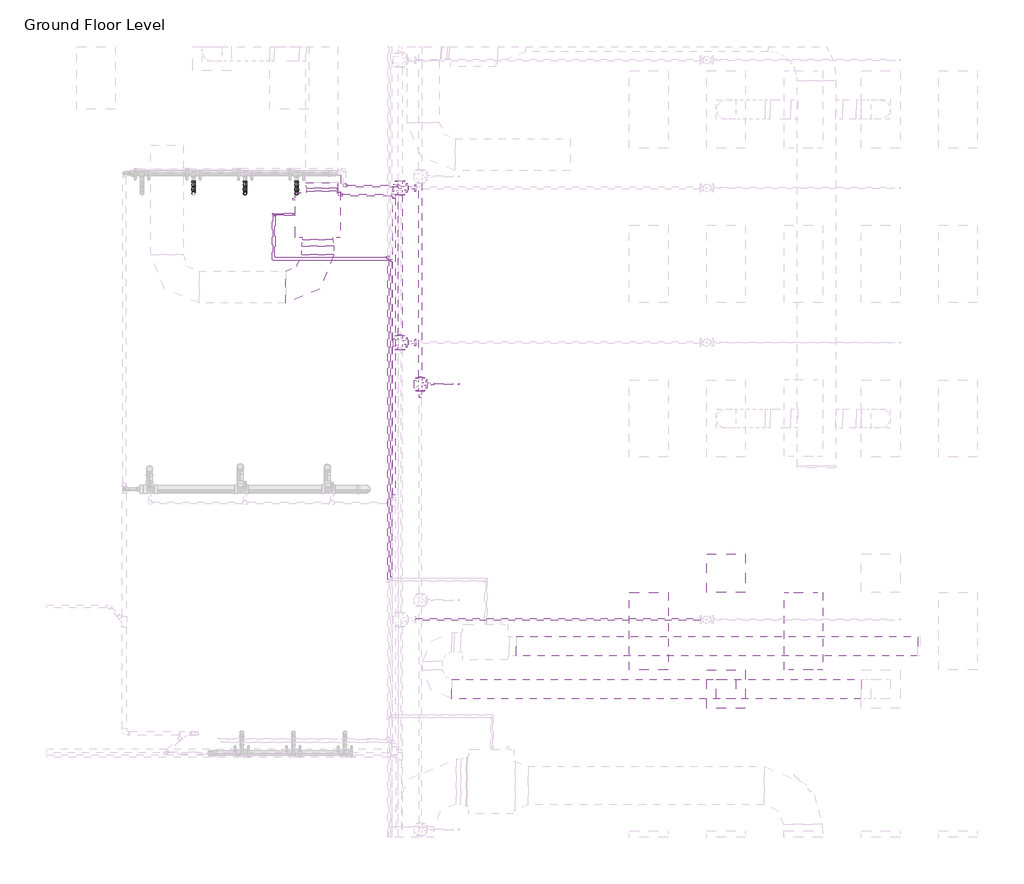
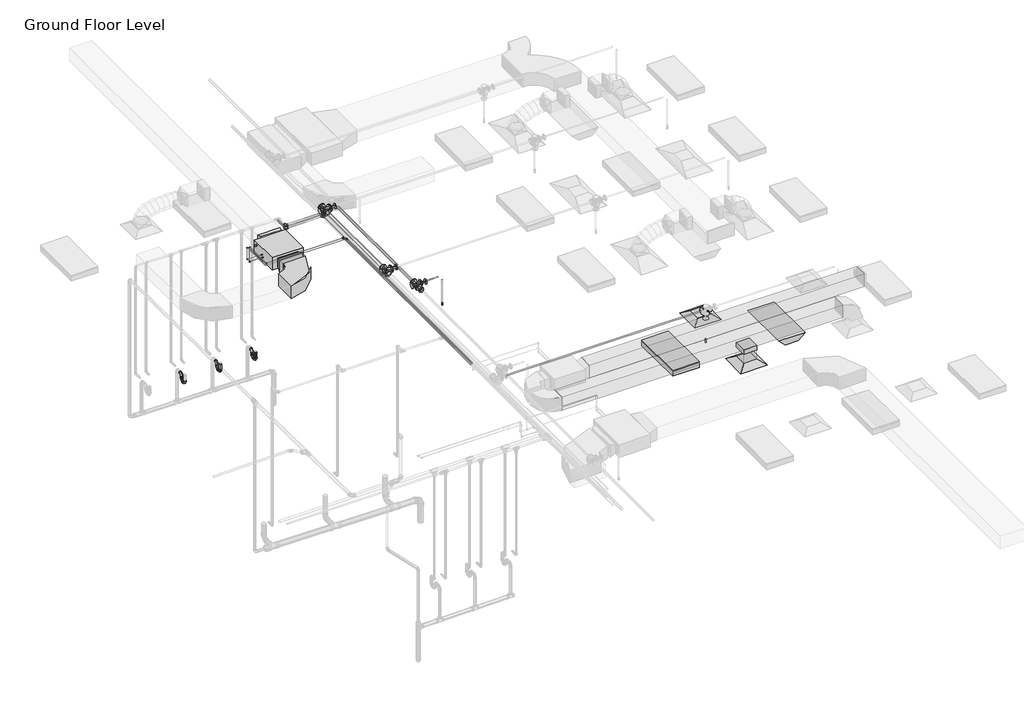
# One storey, part 22 of 75: 28 pipe fittings, 26 pipe segments, 5 duct segments, 4 duct fittings, 2 air terminals, 2 fire suppression terminals, 2 light fixtures, 1 proxy.
"""IFC4 building model written with IfcOpenShell, lengths in millimetres."""

from ifc_helpers import new_model, si_unit, point, frame, frame_2d, origin, place, context, project, spatial, polyline, circle_curve, trimmed, segment, composite_curve, outline, extrude, transform, mapped, element, save
from components import m_return_diffuser_600_x_600_face_300_x_300_connection_ff221211, fcu_daikin_iu_bad131e0, m_rectangular_elbow_radius_1_w_abe20169, m_rectangular_takeoff_standard_2be5eba1, m_rectangular_transition_angle_45_degree_f7c2916c, m_rectangular_transition_angle_45_degree_c3bd3b2c, m_sprinkler_dry_pendent_hosted_15_mm_dry_pendent_9bda8e11, m_sprinkler_pendent_15_mm_pendent_06fcbd8e, m_emergency_recessed_lighting_fixture_600x1200_277_5b10b25d, m_troffer_light_parabolic_rectangular1_0600x1200mm_4_lamp_86473d4a, m_bend_pvc_sch_40_dwv_standard_1e7bdcc1, m_bend_pvc_sch_40_dwv_standard_776e50c4, m_elbow_generic_standard_a088f956, m_elbow_generic_standard_2a704253, m_reducer_flanged_cs_class_150_standard_b6b67c23, m_reducer_flanged_cs_class_150_standard_cc2a7c1d, m_reducer_flanged_cs_class_150_standard_a7631c35, m_tee_generic_standard_5b2ed4d4, m_tee_generic_standard_5078887e, m_tee_round_base_flanged_cs_class_150_standard_dd767e04, m_tee_round_base_flanged_cs_class_150_standard_9c9133d0, m_transition_generic_standard_bdcfe2c1, m_transition_generic_standard_44e35838, standard_517a5a8d

model = new_model("IFC4")

# Units and contexts
model_context = context("Model", 3, world=origin())
ifc_project = project(units=[si_unit("LENGTHUNIT", "METRE", prefix="MILLI")], contexts=[model_context])

# Site, building, storey
site = spatial("IfcSite", under=ifc_project)
building = spatial("IfcBuilding", under=site)
storey = spatial("IfcBuildingStorey", under=building, Name="Ground Floor Level", Elevation=900.0)

# Air terminals
placement = place(None, origin())
m_return_diffuser_600_x_600_face_300_x_300_connection_shape = m_return_diffuser_600_x_600_face_300_x_300_connection_ff221211(model_context)
element("IfcAirTerminal", 1, ObjectType="M_Return Diffuser : 600 x 600 Face 300 x 300 Connection", at=placement, inside=storey, context=model_context, shape_type="MappedRepresentation", body=[
    mapped(m_return_diffuser_600_x_600_face_300_x_300_connection_shape, transform((10743.0482736, -31864.7846466, 3650.0), x_axis=(1.0, 0.0, 0.0), y_axis=(0.0, 1.0, 0.0), z_axis=(0.0, 0.0, 1.0))),
])
element("IfcAirTerminal", 2, ObjectType="M_Supply Diffuser : 600 x 600 Face 300 x 300 Connection", at=placement, inside=storey, context=model_context, shape_type="MappedRepresentation", body=[
    mapped(m_return_diffuser_600_x_600_face_300_x_300_connection_shape, transform((10743.0482736, -30064.7846466, 3650.0), x_axis=(1.0, 0.0, 0.0), y_axis=(0.0, 1.0, 0.0), z_axis=(0.0, 0.0, 1.0))),
])

# Proxy
fcu_daikin_iu_shape = fcu_daikin_iu_bad131e0(model_context)
element("IfcBuildingElementProxy", 3, Name="FCU-DAIKIN IU : 4.5kW, 230V/50Hz/1Ph", ObjectType="FCU-DAIKIN IU : 4.5kW, 230V/50Hz/1Ph", at=placement, inside=storey, context=model_context, shape_type="MappedRepresentation", body=[
    mapped(fcu_daikin_iu_shape, transform((4405.6581832, -24507.2627051, 3934.1054453), x_axis=(-1.0, 0.0, 0.0), y_axis=(0.0, -1.0, 0.0), z_axis=(0.0, 0.0, 1.0))),
])

# Duct fittings
m_rectangular_elbow_radius_1_w_shape = m_rectangular_elbow_radius_1_w_abe20169(model_context)
element("IfcDuctFitting", 4, ObjectType="M_Rectangular Elbow - Radius : 1 W", at=placement, inside=storey, context=model_context, shape_type="MappedRepresentation", body=[
    mapped(m_rectangular_elbow_radius_1_w_shape, transform((4405.6581832, -25622.6440715, 4075.3054453), x_axis=(1.0, 0.0, 0.0), y_axis=(0.0, 1.0, 0.0), z_axis=(0.0, 0.0, 1.0))),
])
m_rectangular_takeoff_standard_shape = m_rectangular_takeoff_standard_2be5eba1(model_context)
element("IfcDuctFitting", 5, ObjectType="M_Rectangular Takeoff : Standard", at=placement, inside=storey, context=model_context, shape_type="MappedRepresentation", body=[
    mapped(m_rectangular_takeoff_standard_shape, transform((10743.0482736, -31864.7846466, 4071.2), x_axis=(0.0, 0.0, -1.0), y_axis=(-1.0, 0.0, 0.0), z_axis=(0.0, 1.0, 0.0))),
])
m_rectangular_transition_angle_45_degree_shape = m_rectangular_transition_angle_45_degree_f7c2916c(model_context)
element("IfcDuctFitting", 6, ObjectType="M_Rectangular Transition - Angle : 45 Degree", at=placement, inside=storey, context=model_context, shape_type="MappedRepresentation", body=[
    mapped(m_rectangular_transition_angle_45_degree_shape, transform((4405.6581832, -24882.6627051, 4075.3054453), x_axis=(0.0, -1.0, 0.0), y_axis=(1.0, 0.0, 0.0), z_axis=(0.0, 0.0, 1.0))),
])
m_rectangular_transition_angle_45_degree_2_shape = m_rectangular_transition_angle_45_degree_c3bd3b2c(model_context)
element("IfcDuctFitting", 7, ObjectType="M_Rectangular Transition - Angle : 45 Degree", at=placement, inside=storey, context=model_context, shape_type="MappedRepresentation", body=[
    mapped(m_rectangular_transition_angle_45_degree_2_shape, transform((4469.1581832, -24003.4668801, 4057.1548873), x_axis=(0.0, -0.9999999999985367, 1.7107374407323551e-06), y_axis=(1.0, 0.0, 0.0), z_axis=(0.0, 1.7107374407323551e-06, 0.9999999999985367))),
])

# Duct segments
element("IfcDuctSegment", 8, ObjectType="Radius Elbows / Taps", at=placement, inside=storey, context=model_context, shape_type="SweptSolid", body=[
    extrude(outline(polyline([(4155.6581832, -24986.1117562), (4655.6581832, -24986.1117562), (4655.6581832, -25122.6440715), (4155.6581832, -25122.6440715), (4155.6581832, -24986.1117562)])), frame((0.0, 0.0, 3925.3054453), z_axis=(0.0, 0.0, 1.0), x_axis=(1.0, 0.0, 0.0)), (0.0, 0.0, 1.0), 300.0),
])
element("IfcDuctSegment", 9, ObjectType="Radius Elbows / Taps", at=placement, inside=storey, context=model_context, shape_type="SweptSolid", body=[
    extrude(outline(polyline([(0.0, -300.0), (0.0, 0.0), (6236.5207712, 0.0), (6236.5207712, -300.0), (0.0, -300.0)])), frame((7482.7433356, -31050.1877703, 4095.9125), z_axis=(2.004322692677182e-06, 0.0, 0.9999999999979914), x_axis=(0.9999999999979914, 0.0, -2.004322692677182e-06)), (0.0, 0.0, 1.0), 300.0),
])
element("IfcDuctSegment", 10, ObjectType="Radius Elbows / Taps", at=placement, inside=storey, context=model_context, shape_type="SweptSolid", body=[
    extrude(outline(polyline([(6488.4644074, -32014.7846466), (6488.4644074, -31714.7846466), (12843.0482736, -31714.7846466), (12843.0482736, -32014.7846466), (6488.4644074, -32014.7846466)])), frame((0.0, 0.0, 4071.2), z_axis=(0.0, 0.0, 1.0), x_axis=(1.0, 0.0, 0.0)), (0.0, 0.0, 1.0), 300.0),
])
element("IfcDuctSegment", 11, ObjectType="Radius Elbows / Taps", at=placement, inside=storey, context=model_context, shape_type="SweptSolid", body=[
    extrude(outline(polyline([(10893.0482736, -32014.7846466), (10593.0482736, -32014.7846466), (10593.0482736, -31714.7846466), (10893.0482736, -31714.7846466), (10893.0482736, -32014.7846466)])), frame((0.0, 0.0, 3751.6), z_axis=(0.0, 0.0, 1.0), x_axis=(1.0, 0.0, 0.0)), (0.0, 0.0, 1.0), 218.0),
])
element("IfcDuctSegment", 12, ObjectType="Radius Elbows / Taps", at=placement, inside=storey, context=model_context, shape_type="SweptSolid", body=[
    extrude(outline(polyline([(4700.0956832, -24131.8627051), (4238.2206832, -24131.8627051), (4238.2206832, -24089.1912487), (4700.0956832, -24089.1912487), (4700.0956832, -24131.8627051)])), frame((0.0, 0.0, 3992.8804453), z_axis=(0.0, 0.0, 1.0), x_axis=(1.0, 0.0, 0.0)), (0.0, 0.0, 1.0), 214.275),
])

# Fire suppression terminals
m_sprinkler_dry_pendent_hosted_15_mm_dry_pendent_shape = m_sprinkler_dry_pendent_hosted_15_mm_dry_pendent_9bda8e11(model_context)
element("IfcFireSuppressionTerminal", 13, ObjectType="M_Sprinkler - Dry - Pendent - Hosted : 15 mm Dry Pendent", at=placement, inside=storey, context=model_context, shape_type="MappedRepresentation", body=[
    mapped(m_sprinkler_dry_pendent_hosted_15_mm_dry_pendent_shape, transform((10443.0482736, -30785.1783804, 3650.0), x_axis=(1.0, 0.0, 0.0), y_axis=(0.0, -1.0, 0.0), z_axis=(0.0, 0.0, -1.0))),
])
m_sprinkler_pendent_15_mm_pendent_shape = m_sprinkler_pendent_15_mm_pendent_06fcbd8e(model_context)
element("IfcFireSuppressionTerminal", 14, ObjectType="M_Sprinkler - Pendent : 15 mm Pendent", at=placement, inside=storey, context=model_context, shape_type="MappedRepresentation", body=[
    mapped(m_sprinkler_pendent_15_mm_pendent_shape, transform((6592.5481019, -27129.3982359, 3650.0), x_axis=(1.0, 0.0, 0.0), y_axis=(0.0, 1.0, 0.0), z_axis=(0.0, 0.0, 1.0))),
])

# Light fixtures
m_emergency_recessed_lighting_fixture_600x1200_277_shape = m_emergency_recessed_lighting_fixture_600x1200_277_5b10b25d(model_context)
element("IfcLightFixture", 15, ObjectType="M_Emergency Recessed Lighting Fixture : 600x1200 - 277", at=placement, inside=storey, context=model_context, shape_type="MappedRepresentation", body=[
    mapped(m_emergency_recessed_lighting_fixture_600x1200_277_shape, transform((11643.0482736, -31564.7846466, 3650.0), x_axis=(0.0, 1.0, 0.0), y_axis=(-1.0, 0.0, 0.0), z_axis=(0.0, 0.0, 1.0))),
])
m_troffer_light_parabolic_rectangular1_0600x1200mm_4_lamp_shape = m_troffer_light_parabolic_rectangular1_0600x1200mm_4_lamp_86473d4a(model_context)
element("IfcLightFixture", 16, ObjectType="M_Troffer Light - Parabolic Rectangular1 : 0600x1200mm(4 Lamp) - 277V 2", at=placement, inside=storey, context=model_context, shape_type="MappedRepresentation", body=[
    mapped(m_troffer_light_parabolic_rectangular1_0600x1200mm_4_lamp_shape, transform((9483.5823415, -30946.081145, 3650.0), x_axis=(0.0, 1.0, 0.0), y_axis=(-1.0, 0.0, 0.0), z_axis=(0.0, 0.0, 1.0))),
])

# Pipe fittings
m_bend_pvc_sch_40_dwv_standard_shape = m_bend_pvc_sch_40_dwv_standard_1e7bdcc1(model_context)
element("IfcPipeFitting", 17, ObjectType="M_Bend - PVC - Sch 40 - DWV : Standard", at=placement, inside=storey, context=model_context, shape_type="MappedRepresentation", body=[
    mapped(m_bend_pvc_sch_40_dwv_standard_shape, transform((2479.14976, -24168.3528577, 1360.00001), x_axis=(0.0, -0.9999500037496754, 0.009999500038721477), y_axis=(0.0, 0.009999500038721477, 0.9999500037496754), z_axis=(-1.0, 0.0, 0.0))),
])
element("IfcPipeFitting", 18, ObjectType="M_Bend - PVC - Sch 40 - DWV : Standard", at=placement, inside=storey, context=model_context, shape_type="MappedRepresentation", body=[
    mapped(m_bend_pvc_sch_40_dwv_standard_shape, transform((3279.14976, -24168.3528577, 1360.0000049), x_axis=(0.0, -0.9999500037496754, 0.009999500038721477), y_axis=(0.0, 0.009999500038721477, 0.9999500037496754), z_axis=(-1.0, 0.0, 0.0))),
])
element("IfcPipeFitting", 19, ObjectType="M_Bend - PVC - Sch 40 - DWV : Standard", at=placement, inside=storey, context=model_context, shape_type="MappedRepresentation", body=[
    mapped(m_bend_pvc_sch_40_dwv_standard_shape, transform((4079.14976, -24168.3528577, 1360.00001), x_axis=(0.0, -0.9999500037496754, 0.009999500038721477), y_axis=(0.0, 0.009999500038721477, 0.9999500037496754), z_axis=(-1.0, 0.0, 0.0))),
])
m_bend_pvc_sch_40_dwv_standard_2_shape = m_bend_pvc_sch_40_dwv_standard_776e50c4(model_context)
element("IfcPipeFitting", 20, ObjectType="M_Bend - PVC - Sch 40 - DWV : Standard", at=placement, inside=storey, context=model_context, shape_type="MappedRepresentation", body=[
    mapped(m_bend_pvc_sch_40_dwv_standard_2_shape, transform((2479.14976, -24038.3518579, 1358.7), x_axis=(0.0, 0.9999500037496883, -0.009999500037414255), y_axis=(0.0, 0.009999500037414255, 0.9999500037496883), z_axis=(1.0, 0.0, 0.0))),
])
element("IfcPipeFitting", 21, ObjectType="M_Bend - PVC - Sch 40 - DWV : Standard", at=placement, inside=storey, context=model_context, shape_type="MappedRepresentation", body=[
    mapped(m_bend_pvc_sch_40_dwv_standard_2_shape, transform((2479.14976, -24038.3518579, 1510.09999), x_axis=(0.0, 0.0, 1.0), y_axis=(0.0, 1.0, 0.0), z_axis=(-1.0, 0.0, 0.0))),
])
element("IfcPipeFitting", 22, ObjectType="M_Bend - PVC - Sch 40 - DWV : Standard", at=placement, inside=storey, context=model_context, shape_type="MappedRepresentation", body=[
    mapped(m_bend_pvc_sch_40_dwv_standard_2_shape, transform((3279.14976, -24038.3523645, 1358.7), x_axis=(0.0, 0.9999500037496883, -0.009999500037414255), y_axis=(0.0, 0.009999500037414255, 0.9999500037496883), z_axis=(1.0, 0.0, 0.0))),
])
element("IfcPipeFitting", 23, ObjectType="M_Bend - PVC - Sch 40 - DWV : Standard", at=placement, inside=storey, context=model_context, shape_type="MappedRepresentation", body=[
    mapped(m_bend_pvc_sch_40_dwv_standard_2_shape, transform((3279.14976, -24038.3523645, 1510.0493267), x_axis=(0.0, 0.0, 1.0), y_axis=(0.0, 1.0, 0.0), z_axis=(-1.0, 0.0, 0.0))),
])
element("IfcPipeFitting", 24, ObjectType="M_Bend - PVC - Sch 40 - DWV : Standard", at=placement, inside=storey, context=model_context, shape_type="MappedRepresentation", body=[
    mapped(m_bend_pvc_sch_40_dwv_standard_2_shape, transform((4079.14976, -24038.3518579, 1358.7), x_axis=(0.0, 0.9999500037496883, -0.009999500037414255), y_axis=(0.0, 0.009999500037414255, 0.9999500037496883), z_axis=(1.0, 0.0, 0.0))),
])
element("IfcPipeFitting", 25, ObjectType="M_Bend - PVC - Sch 40 - DWV : Standard", at=placement, inside=storey, context=model_context, shape_type="MappedRepresentation", body=[
    mapped(m_bend_pvc_sch_40_dwv_standard_2_shape, transform((4079.14976, -24038.3518579, 1510.09999), x_axis=(0.0, 0.0, 1.0), y_axis=(0.0, 1.0, 0.0), z_axis=(-1.0, 0.0, 0.0))),
])
m_elbow_generic_standard_shape = m_elbow_generic_standard_a088f956(model_context)
element("IfcPipeFitting", 26, ObjectType="M_Elbow - Generic : Standard", at=placement, inside=storey, context=model_context, shape_type="MappedRepresentation", body=[
    mapped(m_elbow_generic_standard_shape, transform((3741.7995393, -24507.2440715, 4034.0875), x_axis=(-1.0, 0.0, 0.0), y_axis=(0.0, 0.0, 1.0), z_axis=(0.0, 1.0, 0.0))),
])
element("IfcPipeFitting", 27, ObjectType="M_Elbow - Generic : Standard", at=placement, inside=storey, context=model_context, shape_type="MappedRepresentation", body=[
    mapped(m_elbow_generic_standard_shape, transform((3741.7995393, -24507.2440715, 4390.0), x_axis=(0.0, 0.0, 1.0), y_axis=(0.0, -1.0, 0.0), z_axis=(1.0, 0.0, 0.0))),
])
m_elbow_generic_standard_2_shape = m_elbow_generic_standard_2a704253(model_context)
element("IfcPipeFitting", 28, ObjectType="M_Elbow - Generic : Standard", at=placement, inside=storey, context=model_context, shape_type="MappedRepresentation", body=[
    mapped(m_elbow_generic_standard_2_shape, transform((3705.4496688, -24482.2440715, 4084.8875), x_axis=(-1.0, 0.0, 0.0), y_axis=(0.0, 0.0, 1.0), z_axis=(0.0, 1.0, 0.0))),
])
element("IfcPipeFitting", 29, ObjectType="M_Elbow - Generic : Standard", at=placement, inside=storey, context=model_context, shape_type="MappedRepresentation", body=[
    mapped(m_elbow_generic_standard_2_shape, transform((3705.4496688, -24482.2440715, 4377.5), x_axis=(0.0, 0.0, 1.0), y_axis=(0.0, -1.0, 0.0), z_axis=(1.0, 0.0, 0.0))),
])
m_reducer_flanged_cs_class_150_standard_shape = m_reducer_flanged_cs_class_150_standard_b6b67c23(model_context)
element("IfcPipeFitting", 30, ObjectType="M_Reducer - Flanged - CS - Class 150 : Standard", at=placement, inside=storey, context=model_context, shape_type="MappedRepresentation", body=[
    mapped(m_reducer_flanged_cs_class_150_standard_shape, transform((5997.057812, -27235.4968297, 4291.0943441), x_axis=(0.0, -1.0, 0.0), y_axis=(1.0, 0.0, 0.0), z_axis=(0.0, 0.0, 1.0))),
])
m_reducer_flanged_cs_class_150_standard_2_shape = m_reducer_flanged_cs_class_150_standard_cc2a7c1d(model_context)
element("IfcPipeFitting", 31, ObjectType="M_Reducer - Flanged - CS - Class 150 : Standard", at=placement, inside=storey, context=model_context, shape_type="MappedRepresentation", body=[
    mapped(m_reducer_flanged_cs_class_150_standard_2_shape, transform((6103.1564057, -27129.3982359, 4291.2754753), x_axis=(1.0, 0.0, 0.0), y_axis=(0.0, 0.0, -1.0), z_axis=(0.0, 1.0, 0.0))),
])
m_reducer_flanged_cs_class_150_standard_3_shape = m_reducer_flanged_cs_class_150_standard_a7631c35(model_context)
element("IfcPipeFitting", 32, ObjectType="M_Reducer - Flanged - CS - Class 150 : Standard", at=placement, inside=storey, context=model_context, shape_type="MappedRepresentation", body=[
    mapped(m_reducer_flanged_cs_class_150_standard_3_shape, transform((5798.6174894, -26484.6295433, 4347.5), x_axis=(1.0, 0.0, 0.0), y_axis=(0.0, 0.0, 1.0), z_axis=(0.0, -1.0, 0.0))),
])
element("IfcPipeFitting", 33, ObjectType="M_Reducer - Flanged - CS - Class 150 : Standard", at=placement, inside=storey, context=model_context, shape_type="MappedRepresentation", body=[
    mapped(m_reducer_flanged_cs_class_150_standard_3_shape, transform((5798.6174894, -24083.6779349, 4347.5), x_axis=(1.0, 0.0, 0.0), y_axis=(0.0, 0.0, 1.0), z_axis=(0.0, -1.0, 0.0))),
])
m_tee_generic_standard_shape = m_tee_generic_standard_5b2ed4d4(model_context)
element("IfcPipeFitting", 34, ObjectType="M_Tee - Generic : Standard", at=placement, inside=storey, context=model_context, shape_type="MappedRepresentation", body=[
    mapped(m_tee_generic_standard_shape, transform((5543.9904113, -25206.4899508, 4377.5), x_axis=(0.0, -1.0, 0.0), y_axis=(1.0, 0.0, 0.0), z_axis=(0.0, 0.0, 1.0))),
])
m_tee_generic_standard_2_shape = m_tee_generic_standard_5078887e(model_context)
element("IfcPipeFitting", 35, ObjectType="M_Tee - Generic : Standard", at=placement, inside=storey, context=model_context, shape_type="MappedRepresentation", body=[
    mapped(m_tee_generic_standard_2_shape, transform((5497.8951827, -25162.0896488, 4390.0), x_axis=(0.0, -1.0, 0.0), y_axis=(1.0, 0.0, 0.0), z_axis=(0.0, 0.0, 1.0))),
])
m_tee_round_base_flanged_cs_class_150_standard_shape = m_tee_round_base_flanged_cs_class_150_standard_dd767e04(model_context)
element("IfcPipeFitting", 36, ObjectType="M_Tee Round Base - Flanged - CS - Class 150 : Standard", at=placement, inside=storey, context=model_context, shape_type="MappedRepresentation", body=[
    mapped(m_tee_round_base_flanged_cs_class_150_standard_shape, transform((5684.6174894, -26484.6295433, 4347.5), x_axis=(0.0, -1.0, 0.0), y_axis=(-1.0, 0.0, 0.0), z_axis=(0.0, 0.0, -1.0))),
])
element("IfcPipeFitting", 37, ObjectType="M_Tee Round Base - Flanged - CS - Class 150 : Standard", at=placement, inside=storey, context=model_context, shape_type="MappedRepresentation", body=[
    mapped(m_tee_round_base_flanged_cs_class_150_standard_shape, transform((5684.6174894, -24083.6779349, 4347.5), x_axis=(0.0, -1.0, 0.0), y_axis=(-1.0, 0.0, 0.0), z_axis=(0.0, 0.0, -1.0))),
])
m_tee_round_base_flanged_cs_class_150_standard_2_shape = m_tee_round_base_flanged_cs_class_150_standard_9c9133d0(model_context)
element("IfcPipeFitting", 38, ObjectType="M_Tee Round Base - Flanged - CS - Class 150 : Standard", at=placement, inside=storey, context=model_context, shape_type="MappedRepresentation", body=[
    mapped(m_tee_round_base_flanged_cs_class_150_standard_2_shape, transform((5997.057812, -27129.3982359, 4291.0943441), x_axis=(0.0, 1.0, 0.0), y_axis=(-1.0, 0.0, 0.0), z_axis=(0.0, 0.0, 1.0))),
])
m_transition_generic_standard_shape = m_transition_generic_standard_bdcfe2c1(model_context)
element("IfcPipeFitting", 39, ObjectType="M_Transition - Generic : Standard", at=placement, inside=storey, context=model_context, shape_type="MappedRepresentation", body=[
    mapped(m_transition_generic_standard_shape, transform((5523.3529113, -25206.4899508, 4377.5), x_axis=(-1.0, 0.0, 0.0), y_axis=(0.0, -1.0, 0.0), z_axis=(0.0, 0.0, 1.0))),
])
m_transition_generic_standard_2_shape = m_transition_generic_standard_44e35838(model_context)
element("IfcPipeFitting", 40, ObjectType="M_Transition - Generic : Standard", at=placement, inside=storey, context=model_context, shape_type="MappedRepresentation", body=[
    mapped(m_transition_generic_standard_2_shape, transform((5474.0826827, -25162.0896488, 4390.0), x_axis=(-1.0, 0.0, 0.0), y_axis=(0.0, -1.0, 0.0), z_axis=(0.0, 0.0, 1.0))),
])
standard_shape = standard_517a5a8d(model_context)
element("IfcPipeFitting", 41, ObjectType="M_Elbow - CPVC - Sch 40 : Standard", at=placement, inside=storey, context=model_context, shape_type="MappedRepresentation", body=[
    mapped(standard_shape, transform((4743.0647206, -24195.7825432, 4300.0), x_axis=(0.0, -1.0, 0.0), y_axis=(1.0, 0.0, 0.0), z_axis=(0.0, 0.0, 1.0))),
])
element("IfcPipeFitting", 42, ObjectType="M_Elbow - CPVC - Sch 40 : Standard", at=placement, inside=storey, context=model_context, shape_type="MappedRepresentation", body=[
    mapped(standard_shape, transform((5589.646628, -24195.7825432, 4300.0), x_axis=(0.0, 1.0, 0.0), y_axis=(-1.0, 0.0, 0.0), z_axis=(0.0, 0.0, 1.0))),
])
element("IfcPipeFitting", 43, ObjectType="M_Elbow - CPVC - Sch 40 : Standard", at=placement, inside=storey, context=model_context, shape_type="MappedRepresentation", body=[
    mapped(standard_shape, transform((5680.5575802, -24054.921633, 4250.0), x_axis=(0.0, 1.0, 0.0), y_axis=(-1.0, 0.0, 0.0), z_axis=(0.0, 0.0, 1.0))),
])
element("IfcPipeFitting", 44, ObjectType="M_Elbow - CPVC - Sch 40 : Standard", at=placement, inside=storey, context=model_context, shape_type="MappedRepresentation", body=[
    mapped(standard_shape, transform((4820.5575802, -24054.921633, 4250.0), x_axis=(0.0, -1.0, 0.0), y_axis=(1.0, 0.0, 0.0), z_axis=(0.0, 0.0, 1.0))),
])

# Pipe segments
element("IfcPipeSegment", 45, ObjectType="CPVC", at=placement, inside=storey, context=model_context, shape_type="SweptSolid", body=[
    extrude(outline(composite_curve([segment(trimmed(circle_curve(frame_2d((4300.0, 4743.0647206)), 16.7005), [point((4300.0, 4726.3642206))], [point((4283.2995, 4743.0647206))], False, "CARTESIAN"), True, "CONTINUOUS"), segment(trimmed(circle_curve(frame_2d((4300.0, 4743.0647206)), 16.7005), [point((4283.2995, 4743.0647206))], [point((4300.0, 4759.7652206))], False, "CARTESIAN"), True, "CONTINUOUS"), segment(trimmed(circle_curve(frame_2d((4300.0, 4743.0647206)), 16.7005), [point((4300.0, 4759.7652206))], [point((4316.7005, 4743.0647206))], False, "CARTESIAN"), True, "CONTINUOUS"), segment(trimmed(circle_curve(frame_2d((4300.0, 4743.0647206)), 16.7005), [point((4316.7005, 4743.0647206))], [point((4300.0, 4726.3642206))], False, "CARTESIAN"), True, "CONTINUOUS")], self_intersect=False)), frame((0.0, -24152.5199932, 0.0), z_axis=(0.0, 1.0, 0.0), x_axis=(0.0, 0.0, 1.0)), (0.0, 0.0, 1.0), 264.4727966),
])
element("IfcPipeSegment", 46, ObjectType="CPVC", at=placement, inside=storey, context=model_context, shape_type="SweptSolid", body=[
    extrude(outline(composite_curve([segment(trimmed(circle_curve(frame_2d((-24195.7825432, 4300.0)), 16.7005), [point((-24212.4830432, 4300.0))], [point((-24195.7825432, 4316.7005))], False, "CARTESIAN"), True, "CONTINUOUS"), segment(trimmed(circle_curve(frame_2d((-24195.7825432, 4300.0)), 16.7005), [point((-24195.7825432, 4316.7005))], [point((-24179.0820432, 4300.0))], False, "CARTESIAN"), True, "CONTINUOUS"), segment(trimmed(circle_curve(frame_2d((-24195.7825432, 4300.0)), 16.7005), [point((-24179.0820432, 4300.0))], [point((-24195.7825432, 4283.2995))], False, "CARTESIAN"), True, "CONTINUOUS"), segment(trimmed(circle_curve(frame_2d((-24195.7825432, 4300.0)), 16.7005), [point((-24195.7825432, 4283.2995))], [point((-24212.4830432, 4300.0))], False, "CARTESIAN"), True, "CONTINUOUS")], self_intersect=False)), frame((4786.3272706, 0.0, 0.0), z_axis=(1.0, 0.0, 0.0), x_axis=(0.0, 1.0, 0.0)), (0.0, 0.0, 1.0), 760.0568074),
])
element("IfcPipeSegment", 47, ObjectType="CPVC", at=placement, inside=storey, context=model_context, shape_type="SweptSolid", body=[
    extrude(outline(composite_curve([segment(trimmed(circle_curve(frame_2d((4300.0, 5589.646628)), 16.7005), [point((4300.0, 5572.946128))], [point((4283.2995, 5589.646628))], False, "CARTESIAN"), True, "CONTINUOUS"), segment(trimmed(circle_curve(frame_2d((4300.0, 5589.646628)), 16.7005), [point((4283.2995, 5589.646628))], [point((4300.0, 5606.347128))], False, "CARTESIAN"), True, "CONTINUOUS"), segment(trimmed(circle_curve(frame_2d((4300.0, 5589.646628)), 16.7005), [point((4300.0, 5606.347128))], [point((4316.7005, 5589.646628))], False, "CARTESIAN"), True, "CONTINUOUS"), segment(trimmed(circle_curve(frame_2d((4300.0, 5589.646628)), 16.7005), [point((4316.7005, 5589.646628))], [point((4300.0, 5572.946128))], False, "CARTESIAN"), True, "CONTINUOUS")], self_intersect=False)), frame((0.0, -28854.6907716, 0.0), z_axis=(0.0, 1.0, 0.0), x_axis=(0.0, 0.0, 1.0)), (0.0, 0.0, 1.0), 4615.6456784),
])
element("IfcPipeSegment", 48, ObjectType="CPVC", at=placement, inside=storey, context=model_context, shape_type="SweptSolid", body=[
    extrude(outline(composite_curve([segment(trimmed(circle_curve(frame_2d((-24054.921633, 4250.0)), 16.7005), [point((-24038.221133, 4250.0))], [point((-24054.921633, 4233.2995))], False, "CARTESIAN"), True, "CONTINUOUS"), segment(trimmed(circle_curve(frame_2d((-24054.921633, 4250.0)), 16.7005), [point((-24054.921633, 4233.2995))], [point((-24071.622133, 4250.0))], False, "CARTESIAN"), True, "CONTINUOUS"), segment(trimmed(circle_curve(frame_2d((-24054.921633, 4250.0)), 16.7005), [point((-24071.622133, 4250.0))], [point((-24054.921633, 4266.7005))], False, "CARTESIAN"), True, "CONTINUOUS"), segment(trimmed(circle_curve(frame_2d((-24054.921633, 4250.0)), 16.7005), [point((-24054.921633, 4266.7005))], [point((-24038.221133, 4250.0))], False, "CARTESIAN"), True, "CONTINUOUS")], self_intersect=False)), frame((4863.8201302, 0.0, 0.0), z_axis=(1.0, 0.0, 0.0), x_axis=(0.0, 1.0, 0.0)), (0.0, 0.0, 1.0), 773.4749),
])
element("IfcPipeSegment", 49, ObjectType="Copper", at=placement, inside=storey, context=model_context, shape_type="SweptSolid", body=[
    extrude(outline(composite_curve([segment(trimmed(circle_curve(frame_2d((-25206.4899508, 4377.5)), 3.35), [point((-25209.8399508, 4377.5))], [point((-25206.4899508, 4380.85))], False, "CARTESIAN"), True, "CONTINUOUS"), segment(trimmed(circle_curve(frame_2d((-25206.4899508, 4377.5)), 3.35), [point((-25206.4899508, 4380.85))], [point((-25203.1399508, 4377.5))], False, "CARTESIAN"), True, "CONTINUOUS"), segment(trimmed(circle_curve(frame_2d((-25206.4899508, 4377.5)), 3.35), [point((-25203.1399508, 4377.5))], [point((-25206.4899508, 4374.15))], False, "CARTESIAN"), True, "CONTINUOUS"), segment(trimmed(circle_curve(frame_2d((-25206.4899508, 4377.5)), 3.35), [point((-25206.4899508, 4374.15))], [point((-25209.8399508, 4377.5))], False, "CARTESIAN"), True, "CONTINUOUS")], self_intersect=False)), frame((3716.5871688, 0.0, 0.0), z_axis=(1.0, 0.0, 0.0), x_axis=(0.0, 1.0, 0.0)), (0.0, 0.0, 1.0), 1802.7969926),
])
element("IfcPipeSegment", 50, ObjectType="Copper", at=placement, inside=storey, context=model_context, shape_type="SweptSolid", body=[
    extrude(outline(composite_curve([segment(trimmed(circle_curve(frame_2d((-25162.0896488, 4390.0)), 6.5), [point((-25168.5896488, 4390.0))], [point((-25162.0896488, 4396.5))], False, "CARTESIAN"), True, "CONTINUOUS"), segment(trimmed(circle_curve(frame_2d((-25162.0896488, 4390.0)), 6.5), [point((-25162.0896488, 4396.5))], [point((-25155.5896488, 4390.0))], False, "CARTESIAN"), True, "CONTINUOUS"), segment(trimmed(circle_curve(frame_2d((-25162.0896488, 4390.0)), 6.5), [point((-25155.5896488, 4390.0))], [point((-25162.0896488, 4383.5))], False, "CARTESIAN"), True, "CONTINUOUS"), segment(trimmed(circle_curve(frame_2d((-25162.0896488, 4390.0)), 6.5), [point((-25162.0896488, 4383.5))], [point((-25168.5896488, 4390.0))], False, "CARTESIAN"), True, "CONTINUOUS")], self_intersect=False)), frame((3756.0870393, 0.0, 0.0), z_axis=(1.0, 0.0, 0.0), x_axis=(0.0, 1.0, 0.0)), (0.0, 0.0, 1.0), 1712.4393933),
])
element("IfcPipeSegment", 51, ObjectType="Copper", at=placement, inside=storey, context=model_context, shape_type="SweptSolid", body=[
    extrude(outline(composite_curve([segment(trimmed(circle_curve(frame_2d((4377.5, 3705.4496688)), 3.35), [point((4377.5, 3702.0996688))], [point((4374.15, 3705.4496688))], False, "CARTESIAN"), True, "CONTINUOUS"), segment(trimmed(circle_curve(frame_2d((4377.5, 3705.4496688)), 3.35), [point((4374.15, 3705.4496688))], [point((4377.5, 3708.7996688))], False, "CARTESIAN"), True, "CONTINUOUS"), segment(trimmed(circle_curve(frame_2d((4377.5, 3705.4496688)), 3.35), [point((4377.5, 3708.7996688))], [point((4380.85, 3705.4496688))], False, "CARTESIAN"), True, "CONTINUOUS"), segment(trimmed(circle_curve(frame_2d((4377.5, 3705.4496688)), 3.35), [point((4380.85, 3705.4496688))], [point((4377.5, 3702.0996688))], False, "CARTESIAN"), True, "CONTINUOUS")], self_intersect=False)), frame((0.0, -25195.3524508, 0.0), z_axis=(0.0, 1.0, 0.0), x_axis=(0.0, 0.0, 1.0)), (0.0, 0.0, 1.0), 701.9708793),
])
element("IfcPipeSegment", 52, ObjectType="Copper", at=placement, inside=storey, context=model_context, shape_type="SweptSolid", body=[
    extrude(outline(composite_curve([segment(trimmed(circle_curve(frame_2d((4390.0, 3741.7995393)), 6.5), [point((4390.0, 3735.2995393))], [point((4383.5, 3741.7995393))], False, "CARTESIAN"), True, "CONTINUOUS"), segment(trimmed(circle_curve(frame_2d((4390.0, 3741.7995393)), 6.5), [point((4383.5, 3741.7995393))], [point((4390.0, 3748.2995393))], False, "CARTESIAN"), True, "CONTINUOUS"), segment(trimmed(circle_curve(frame_2d((4390.0, 3741.7995393)), 6.5), [point((4390.0, 3748.2995393))], [point((4396.5, 3741.7995393))], False, "CARTESIAN"), True, "CONTINUOUS"), segment(trimmed(circle_curve(frame_2d((4390.0, 3741.7995393)), 6.5), [point((4396.5, 3741.7995393))], [point((4390.0, 3735.2995393))], False, "CARTESIAN"), True, "CONTINUOUS")], self_intersect=False)), frame((0.0, -25147.8021488, 0.0), z_axis=(0.0, 1.0, 0.0), x_axis=(0.0, 0.0, 1.0)), (0.0, 0.0, 1.0), 626.2705772),
])
element("IfcPipeSegment", 53, ObjectType="Copper", at=placement, inside=storey, context=model_context, shape_type="SweptSolid", body=[
    extrude(outline(composite_curve([segment(trimmed(circle_curve(frame_2d((0.0, -6.5)), 6.5), [point((-6.5, -6.5))], [point((1e-07, 0.0))], False, "CARTESIAN"), True, "CONTINUOUS"), segment(trimmed(circle_curve(frame_2d((0.0, -6.5)), 6.5), [point((1e-07, 0.0))], [point((6.5, -6.5))], False, "CARTESIAN"), True, "CONTINUOUS"), segment(trimmed(circle_curve(frame_2d((0.0, -6.5)), 6.5), [point((6.5, -6.5))], [point((0.0, -13.0))], False, "CARTESIAN"), True, "CONTINUOUS"), segment(trimmed(circle_curve(frame_2d((0.0, -6.5)), 6.5), [point((0.0, -13.0))], [point((-6.5, -6.5))], False, "CARTESIAN"), True, "CONTINUOUS")], self_intersect=False)), frame((3756.0874855, -24507.2440715, 4027.5875), z_axis=(0.9999999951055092, -7.12643563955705e-05, 6.86321587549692e-05), x_axis=(-7.126435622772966e-05, -0.9999999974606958, -4.891026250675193e-09)), (0.0, 0.0, 1.0), 261.4711452),
])
element("IfcPipeSegment", 54, ObjectType="Copper", at=placement, inside=storey, context=model_context, shape_type="SweptSolid", body=[
    extrude(outline(composite_curve([segment(trimmed(circle_curve(frame_2d((0.0, -3.35)), 3.35), [point((-3.35, -3.35))], [point((0.0, 0.0))], False, "CARTESIAN"), True, "CONTINUOUS"), segment(trimmed(circle_curve(frame_2d((0.0, -3.35)), 3.35), [point((0.0, 0.0))], [point((3.35, -3.35))], False, "CARTESIAN"), True, "CONTINUOUS"), segment(trimmed(circle_curve(frame_2d((0.0, -3.35)), 3.35), [point((3.35, -3.35))], [point((0.0, -6.7))], False, "CARTESIAN"), True, "CONTINUOUS"), segment(trimmed(circle_curve(frame_2d((0.0, -3.35)), 3.35), [point((0.0, -6.7))], [point((-3.35, -3.35))], False, "CARTESIAN"), True, "CONTINUOUS")], self_intersect=False)), frame((3716.5873685, -24482.2440715, 4081.5375), z_axis=(0.9999999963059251, -6.191151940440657e-05, 5.962477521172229e-05), x_axis=(-6.191151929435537e-05, -0.999999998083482, -3.691459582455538e-09)), (0.0, 0.0, 1.0), 300.9710156),
])
element("IfcPipeSegment", 55, ObjectType="Copper", at=placement, inside=storey, context=model_context, shape_type="SweptSolid", body=[
    extrude(outline(composite_curve([segment(trimmed(circle_curve(frame_2d((3705.4496688, -24482.2440715)), 3.35), [point((3702.0996688, -24482.2440715))], [point((3705.4496688, -24478.8940715))], False, "CARTESIAN"), True, "CONTINUOUS"), segment(trimmed(circle_curve(frame_2d((3705.4496688, -24482.2440715)), 3.35), [point((3705.4496688, -24478.8940715))], [point((3708.7996688, -24482.2440715))], False, "CARTESIAN"), True, "CONTINUOUS"), segment(trimmed(circle_curve(frame_2d((3705.4496688, -24482.2440715)), 3.35), [point((3708.7996688, -24482.2440715))], [point((3705.4496688, -24485.5940715))], False, "CARTESIAN"), True, "CONTINUOUS"), segment(trimmed(circle_curve(frame_2d((3705.4496688, -24482.2440715)), 3.35), [point((3705.4496688, -24485.5940715))], [point((3702.0996688, -24482.2440715))], False, "CARTESIAN"), True, "CONTINUOUS")], self_intersect=False)), frame((0.0, 0.0, 4096.025), z_axis=(0.0, 0.0, 1.0), x_axis=(1.0, 0.0, 0.0)), (0.0, 0.0, 1.0), 270.3375),
])
element("IfcPipeSegment", 56, ObjectType="Copper", at=placement, inside=storey, context=model_context, shape_type="SweptSolid", body=[
    extrude(outline(composite_curve([segment(trimmed(circle_curve(frame_2d((3741.7995393, -24507.2440715)), 6.5), [point((3735.2995393, -24507.2440715))], [point((3741.7995393, -24500.7440715))], False, "CARTESIAN"), True, "CONTINUOUS"), segment(trimmed(circle_curve(frame_2d((3741.7995393, -24507.2440715)), 6.5), [point((3741.7995393, -24500.7440715))], [point((3748.2995393, -24507.2440715))], False, "CARTESIAN"), True, "CONTINUOUS"), segment(trimmed(circle_curve(frame_2d((3741.7995393, -24507.2440715)), 6.5), [point((3748.2995393, -24507.2440715))], [point((3741.7995393, -24513.7440715))], False, "CARTESIAN"), True, "CONTINUOUS"), segment(trimmed(circle_curve(frame_2d((3741.7995393, -24507.2440715)), 6.5), [point((3741.7995393, -24513.7440715))], [point((3735.2995393, -24507.2440715))], False, "CARTESIAN"), True, "CONTINUOUS")], self_intersect=False)), frame((0.0, 0.0, 4048.375), z_axis=(0.0, 0.0, 1.0), x_axis=(1.0, 0.0, 0.0)), (0.0, 0.0, 1.0), 327.3375),
])
element("IfcPipeSegment", 57, ObjectType="Copper", at=placement, inside=storey, context=model_context, shape_type="SweptSolid", body=[
    extrude(outline(composite_curve([segment(trimmed(circle_curve(frame_2d((4377.5, 5543.9904113)), 6.5), [point((4377.5, 5550.4904113))], [point((4384.0, 5543.9904113))], False, "CARTESIAN"), True, "CONTINUOUS"), segment(trimmed(circle_curve(frame_2d((4377.5, 5543.9904113)), 6.5), [point((4384.0, 5543.9904113))], [point((4377.5, 5537.4904113))], False, "CARTESIAN"), True, "CONTINUOUS"), segment(trimmed(circle_curve(frame_2d((4377.5, 5543.9904113)), 6.5), [point((4377.5, 5537.4904113))], [point((4371.0, 5543.9904113))], False, "CARTESIAN"), True, "CONTINUOUS"), segment(trimmed(circle_curve(frame_2d((4377.5, 5543.9904113)), 6.5), [point((4371.0, 5543.9904113))], [point((4377.5, 5550.4904113))], False, "CARTESIAN"), True, "CONTINUOUS")], self_intersect=False)), frame((0.0, -30124.2941538, 0.0), z_axis=(0.0, 1.0, 0.0), x_axis=(0.0, 0.0, 1.0)), (0.0, 0.0, 1.0), 4897.166703),
])
element("IfcPipeSegment", 58, ObjectType="Copper", at=placement, inside=storey, context=model_context, shape_type="SweptSolid", body=[
    extrude(outline(composite_curve([segment(trimmed(circle_curve(frame_2d((4390.0, 5497.8951827)), 9.75), [point((4390.0, 5507.6451827))], [point((4399.75, 5497.8951827))], False, "CARTESIAN"), True, "CONTINUOUS"), segment(trimmed(circle_curve(frame_2d((4390.0, 5497.8951827)), 9.75), [point((4399.75, 5497.8951827))], [point((4390.0, 5488.1451827))], False, "CARTESIAN"), True, "CONTINUOUS"), segment(trimmed(circle_curve(frame_2d((4390.0, 5497.8951827)), 9.75), [point((4390.0, 5488.1451827))], [point((4380.25, 5497.8951827))], False, "CARTESIAN"), True, "CONTINUOUS"), segment(trimmed(circle_curve(frame_2d((4390.0, 5497.8951827)), 9.75), [point((4380.25, 5497.8951827))], [point((4390.0, 5507.6451827))], False, "CARTESIAN"), True, "CONTINUOUS")], self_intersect=False)), frame((0.0, -30163.6388653, 0.0), z_axis=(0.0, 1.0, 0.0), x_axis=(0.0, 0.0, 1.0)), (0.0, 0.0, 1.0), 4977.7367166),
])
element("IfcPipeSegment", 59, ObjectType="PVC - DWV", at=placement, inside=storey, context=model_context, shape_type="SweptSolid", body=[
    extrude(outline(composite_curve([segment(trimmed(circle_curve(frame_2d((2479.14976, -24038.3518579)), 24.13), [point((2455.01976, -24038.3518579))], [point((2479.14976, -24014.2218579))], False, "CARTESIAN"), True, "CONTINUOUS"), segment(trimmed(circle_curve(frame_2d((2479.14976, -24038.3518579)), 24.13), [point((2479.14976, -24014.2218579))], [point((2503.27976, -24038.3518579))], False, "CARTESIAN"), True, "CONTINUOUS"), segment(trimmed(circle_curve(frame_2d((2479.14976, -24038.3518579)), 24.13), [point((2503.27976, -24038.3518579))], [point((2479.14976, -24062.4818579))], False, "CARTESIAN"), True, "CONTINUOUS"), segment(trimmed(circle_curve(frame_2d((2479.14976, -24038.3518579)), 24.13), [point((2479.14976, -24062.4818579))], [point((2455.01976, -24038.3518579))], False, "CARTESIAN"), True, "CONTINUOUS")], self_intersect=False)), frame((0.0, 0.0, 1420.5998), z_axis=(0.0, 0.0, 1.0), x_axis=(1.0, 0.0, 0.0)), (0.0, 0.0, 1.0), 27.60039),
])
element("IfcPipeSegment", 60, ObjectType="PVC - DWV", at=placement, inside=storey, context=model_context, shape_type="SweptSolid", body=[
    extrude(outline(composite_curve([segment(trimmed(circle_curve(frame_2d((3279.14976, -24168.3528577)), 24.13), [point((3255.01976, -24168.3528577))], [point((3279.14976, -24144.2228577))], False, "CARTESIAN"), True, "CONTINUOUS"), segment(trimmed(circle_curve(frame_2d((3279.14976, -24168.3528577)), 24.13), [point((3279.14976, -24144.2228577))], [point((3303.27976, -24168.3528577))], False, "CARTESIAN"), True, "CONTINUOUS"), segment(trimmed(circle_curve(frame_2d((3279.14976, -24168.3528577)), 24.13), [point((3303.27976, -24168.3528577))], [point((3279.14976, -24192.4828577))], False, "CARTESIAN"), True, "CONTINUOUS"), segment(trimmed(circle_curve(frame_2d((3279.14976, -24168.3528577)), 24.13), [point((3279.14976, -24192.4828577))], [point((3255.01976, -24168.3528577))], False, "CARTESIAN"), True, "CONTINUOUS")], self_intersect=False)), frame((0.0, 0.0, 1421.8998049), z_axis=(0.0, 0.0, 1.0), x_axis=(1.0, 0.0, 0.0)), (0.0, 0.0, 1.0), 128.1001951),
])
element("IfcPipeSegment", 61, ObjectType="PVC - DWV", at=placement, inside=storey, context=model_context, shape_type="SweptSolid", body=[
    extrude(outline(composite_curve([segment(trimmed(circle_curve(frame_2d((0.0, -24.1299999)), 24.13), [point((24.13, -24.1299999))], [point((0.0, -48.2599999))], False, "CARTESIAN"), True, "CONTINUOUS"), segment(trimmed(circle_curve(frame_2d((0.0, -24.1299999)), 24.13), [point((0.0, -48.2599999))], [point((-24.13, -24.1299999))], False, "CARTESIAN"), True, "CONTINUOUS"), segment(trimmed(circle_curve(frame_2d((0.0, -24.1299999)), 24.13), [point((-24.13, -24.1299999))], [point((0.0, 0.0))], False, "CARTESIAN"), True, "CONTINUOUS"), segment(trimmed(circle_curve(frame_2d((0.0, -24.1299999)), 24.13), [point((0.0, 0.0))], [point((24.13, -24.1299999))], False, "CARTESIAN"), True, "CONTINUOUS")], self_intersect=False)), frame((3279.14976, -24100.0077818, 1383.4477606), z_axis=(0.0, -0.9999500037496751, 0.009999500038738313), x_axis=(1.0, 0.0, 0.0)), (0.0, 0.0, 1.0), 6.2073931),
])
element("IfcPipeSegment", 62, ObjectType="PVC - DWV", at=placement, inside=storey, context=model_context, shape_type="SweptSolid", body=[
    extrude(outline(composite_curve([segment(trimmed(circle_curve(frame_2d((3279.14976, -24038.3523645)), 24.13), [point((3255.01976, -24038.3523645))], [point((3279.14976, -24014.2223645))], False, "CARTESIAN"), True, "CONTINUOUS"), segment(trimmed(circle_curve(frame_2d((3279.14976, -24038.3523645)), 24.13), [point((3279.14976, -24014.2223645))], [point((3303.27976, -24038.3523645))], False, "CARTESIAN"), True, "CONTINUOUS"), segment(trimmed(circle_curve(frame_2d((3279.14976, -24038.3523645)), 24.13), [point((3303.27976, -24038.3523645))], [point((3279.14976, -24062.4823645))], False, "CARTESIAN"), True, "CONTINUOUS"), segment(trimmed(circle_curve(frame_2d((3279.14976, -24038.3523645)), 24.13), [point((3279.14976, -24062.4823645))], [point((3255.01976, -24038.3523645))], False, "CARTESIAN"), True, "CONTINUOUS")], self_intersect=False)), frame((0.0, 0.0, 1420.5998), z_axis=(0.0, 0.0, 1.0), x_axis=(1.0, 0.0, 0.0)), (0.0, 0.0, 1.0), 27.5497267),
])
element("IfcPipeSegment", 63, ObjectType="PVC - DWV", at=placement, inside=storey, context=model_context, shape_type="SweptSolid", body=[
    extrude(outline(composite_curve([segment(trimmed(circle_curve(frame_2d((4079.14976, -24168.3528577)), 24.13), [point((4055.01976, -24168.3528577))], [point((4079.14976, -24144.2228577))], False, "CARTESIAN"), True, "CONTINUOUS"), segment(trimmed(circle_curve(frame_2d((4079.14976, -24168.3528577)), 24.13), [point((4079.14976, -24144.2228577))], [point((4103.27976, -24168.3528577))], False, "CARTESIAN"), True, "CONTINUOUS"), segment(trimmed(circle_curve(frame_2d((4079.14976, -24168.3528577)), 24.13), [point((4103.27976, -24168.3528577))], [point((4079.14976, -24192.4828577))], False, "CARTESIAN"), True, "CONTINUOUS"), segment(trimmed(circle_curve(frame_2d((4079.14976, -24168.3528577)), 24.13), [point((4079.14976, -24192.4828577))], [point((4055.01976, -24168.3528577))], False, "CARTESIAN"), True, "CONTINUOUS")], self_intersect=False)), frame((0.0, 0.0, 1421.89981), z_axis=(0.0, 0.0, 1.0), x_axis=(1.0, 0.0, 0.0)), (0.0, 0.0, 1.0), 128.10019),
])
element("IfcPipeSegment", 64, ObjectType="PVC - DWV", at=placement, inside=storey, context=model_context, shape_type="SweptSolid", body=[
    extrude(outline(composite_curve([segment(trimmed(circle_curve(frame_2d((0.0, -24.1299999)), 24.13), [point((24.13, -24.1299999))], [point((0.0, -48.2599999))], False, "CARTESIAN"), True, "CONTINUOUS"), segment(trimmed(circle_curve(frame_2d((0.0, -24.1299999)), 24.13), [point((0.0, -48.2599999))], [point((-24.13, -24.1299999))], False, "CARTESIAN"), True, "CONTINUOUS"), segment(trimmed(circle_curve(frame_2d((0.0, -24.1299999)), 24.13), [point((-24.13, -24.1299999))], [point((0.0, 0.0))], False, "CARTESIAN"), True, "CONTINUOUS"), segment(trimmed(circle_curve(frame_2d((0.0, -24.1299999)), 24.13), [point((0.0, 0.0))], [point((24.13, -24.1299999))], False, "CARTESIAN"), True, "CONTINUOUS")], self_intersect=False)), frame((4079.14976, -24100.0072752, 1383.4477606), z_axis=(0.0, -0.9999500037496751, 0.009999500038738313), x_axis=(1.0, 0.0, 0.0)), (0.0, 0.0, 1.0), 6.2078997),
])
element("IfcPipeSegment", 65, ObjectType="PVC - DWV", at=placement, inside=storey, context=model_context, shape_type="SweptSolid", body=[
    extrude(outline(composite_curve([segment(trimmed(circle_curve(frame_2d((4079.14976, -24038.3518579)), 24.13), [point((4055.01976, -24038.3518579))], [point((4079.14976, -24014.2218579))], False, "CARTESIAN"), True, "CONTINUOUS"), segment(trimmed(circle_curve(frame_2d((4079.14976, -24038.3518579)), 24.13), [point((4079.14976, -24014.2218579))], [point((4103.27976, -24038.3518579))], False, "CARTESIAN"), True, "CONTINUOUS"), segment(trimmed(circle_curve(frame_2d((4079.14976, -24038.3518579)), 24.13), [point((4103.27976, -24038.3518579))], [point((4079.14976, -24062.4818579))], False, "CARTESIAN"), True, "CONTINUOUS"), segment(trimmed(circle_curve(frame_2d((4079.14976, -24038.3518579)), 24.13), [point((4079.14976, -24062.4818579))], [point((4055.01976, -24038.3518579))], False, "CARTESIAN"), True, "CONTINUOUS")], self_intersect=False)), frame((0.0, 0.0, 1420.5998), z_axis=(0.0, 0.0, 1.0), x_axis=(1.0, 0.0, 0.0)), (0.0, 0.0, 1.0), 27.60039),
])
element("IfcPipeSegment", 66, ObjectType="Steel flanged", at=placement, inside=storey, context=model_context, shape_type="SweptSolid", body=[
    extrude(outline(composite_curve([segment(trimmed(circle_curve(frame_2d((6592.5481019, -27129.3982359)), 10.668), [point((6581.8801019, -27129.3982359))], [point((6592.5481019, -27118.7302359))], False, "CARTESIAN"), True, "CONTINUOUS"), segment(trimmed(circle_curve(frame_2d((6592.5481019, -27129.3982359)), 10.668), [point((6592.5481019, -27118.7302359))], [point((6603.2161019, -27129.3982359))], False, "CARTESIAN"), True, "CONTINUOUS"), segment(trimmed(circle_curve(frame_2d((6592.5481019, -27129.3982359)), 10.668), [point((6603.2161019, -27129.3982359))], [point((6592.5481019, -27140.0662359))], False, "CARTESIAN"), True, "CONTINUOUS"), segment(trimmed(circle_curve(frame_2d((6592.5481019, -27129.3982359)), 10.668), [point((6592.5481019, -27140.0662359))], [point((6581.8801019, -27129.3982359))], False, "CARTESIAN"), True, "CONTINUOUS")], self_intersect=False)), frame((0.0, 0.0, 3650.0), z_axis=(0.0, 0.0, 1.0), x_axis=(1.0, 0.0, 0.0)), (0.0, 0.0, 1.0), 548.2668816),
])
element("IfcPipeSegment", 67, ObjectType="Steel flanged", at=placement, inside=storey, context=model_context, shape_type="SweptSolid", body=[
    extrude(outline(composite_curve([segment(trimmed(circle_curve(frame_2d((-27129.3982359, 4291.2754753)), 10.668), [point((-27118.7302359, 4291.2754753))], [point((-27129.3982359, 4280.6074753))], False, "CARTESIAN"), True, "CONTINUOUS"), segment(trimmed(circle_curve(frame_2d((-27129.3982359, 4291.2754753)), 10.668), [point((-27129.3982359, 4280.6074753))], [point((-27140.0662359, 4291.2754753))], False, "CARTESIAN"), True, "CONTINUOUS"), segment(trimmed(circle_curve(frame_2d((-27129.3982359, 4291.2754753)), 10.668), [point((-27140.0662359, 4291.2754753))], [point((-27129.3982359, 4301.9434753))], False, "CARTESIAN"), True, "CONTINUOUS"), segment(trimmed(circle_curve(frame_2d((-27129.3982359, 4291.2754753)), 10.668), [point((-27129.3982359, 4301.9434753))], [point((-27118.7302359, 4291.2754753))], False, "CARTESIAN"), True, "CONTINUOUS")], self_intersect=False)), frame((6217.1564057, 0.0, 0.0), z_axis=(1.0, 0.0, 0.0), x_axis=(0.0, 1.0, 0.0)), (0.0, 0.0, 1.0), 282.3831025),
])
element("IfcPipeSegment", 68, ObjectType="Steel flanged", at=placement, inside=storey, context=model_context, shape_type="SweptSolid", body=[
    extrude(outline(composite_curve([segment(trimmed(circle_curve(frame_2d((4291.0943441, 5997.057812)), 21.082), [point((4291.0943441, 5975.975812))], [point((4270.0123441, 5997.057812))], False, "CARTESIAN"), True, "CONTINUOUS"), segment(trimmed(circle_curve(frame_2d((4291.0943441, 5997.057812)), 21.082), [point((4270.0123441, 5997.057812))], [point((4291.0943441, 6018.139812))], False, "CARTESIAN"), True, "CONTINUOUS"), segment(trimmed(circle_curve(frame_2d((4291.0943441, 5997.057812)), 21.082), [point((4291.0943441, 6018.139812))], [point((4312.1763441, 5997.057812))], False, "CARTESIAN"), True, "CONTINUOUS"), segment(trimmed(circle_curve(frame_2d((4291.0943441, 5997.057812)), 21.082), [point((4312.1763441, 5997.057812))], [point((4291.0943441, 5975.975812))], False, "CARTESIAN"), True, "CONTINUOUS")], self_intersect=False)), frame((0.0, -27023.2996422, 0.0), z_axis=(0.0, 1.0, 0.0), x_axis=(0.0, 0.0, 1.0)), (0.0, 0.0, 1.0), 3013.5231135),
])
element("IfcPipeSegment", 69, ObjectType="Steel flanged", at=placement, inside=storey, context=model_context, shape_type="SweptSolid", body=[
    extrude(outline(composite_curve([segment(trimmed(circle_curve(frame_2d((4347.5, 5684.6174894)), 30.1625), [point((4347.5, 5714.7799894))], [point((4377.6625, 5684.6174894))], False, "CARTESIAN"), True, "CONTINUOUS"), segment(trimmed(circle_curve(frame_2d((4347.5, 5684.6174894)), 30.1625), [point((4377.6625, 5684.6174894))], [point((4347.5, 5654.4549894))], False, "CARTESIAN"), True, "CONTINUOUS"), segment(trimmed(circle_curve(frame_2d((4347.5, 5684.6174894)), 30.1625), [point((4347.5, 5654.4549894))], [point((4317.3375, 5684.6174894))], False, "CARTESIAN"), True, "CONTINUOUS"), segment(trimmed(circle_curve(frame_2d((4347.5, 5684.6174894)), 30.1625), [point((4317.3375, 5684.6174894))], [point((4347.5, 5714.7799894))], False, "CARTESIAN"), True, "CONTINUOUS")], self_intersect=False)), frame((0.0, -26370.6295433, 0.0), z_axis=(0.0, 1.0, 0.0), x_axis=(0.0, 0.0, 1.0)), (0.0, 0.0, 1.0), 2172.9516084),
])
element("IfcPipeSegment", 70, ObjectType="Steel flanged", at=placement, inside=storey, context=model_context, shape_type="SweptSolid", body=[
    extrude(outline(composite_curve([segment(trimmed(circle_curve(frame_2d((-30785.1783804, 4347.5)), 16.7005), [point((-30768.4778804, 4347.5))], [point((-30785.1783804, 4330.7995))], False, "CARTESIAN"), True, "CONTINUOUS"), segment(trimmed(circle_curve(frame_2d((-30785.1783804, 4347.5)), 16.7005), [point((-30785.1783804, 4330.7995))], [point((-30801.8788804, 4347.5))], False, "CARTESIAN"), True, "CONTINUOUS"), segment(trimmed(circle_curve(frame_2d((-30785.1783804, 4347.5)), 16.7005), [point((-30801.8788804, 4347.5))], [point((-30785.1783804, 4364.2005))], False, "CARTESIAN"), True, "CONTINUOUS"), segment(trimmed(circle_curve(frame_2d((-30785.1783804, 4347.5)), 16.7005), [point((-30785.1783804, 4364.2005))], [point((-30768.4778804, 4347.5))], False, "CARTESIAN"), True, "CONTINUOUS")], self_intersect=False)), frame((5925.6174894, 0.0, 0.0), z_axis=(1.0, 0.0, 0.0), x_axis=(0.0, 1.0, 0.0)), (0.0, 0.0, 1.0), 4416.7221905),
])

save(model, "model.ifc")
